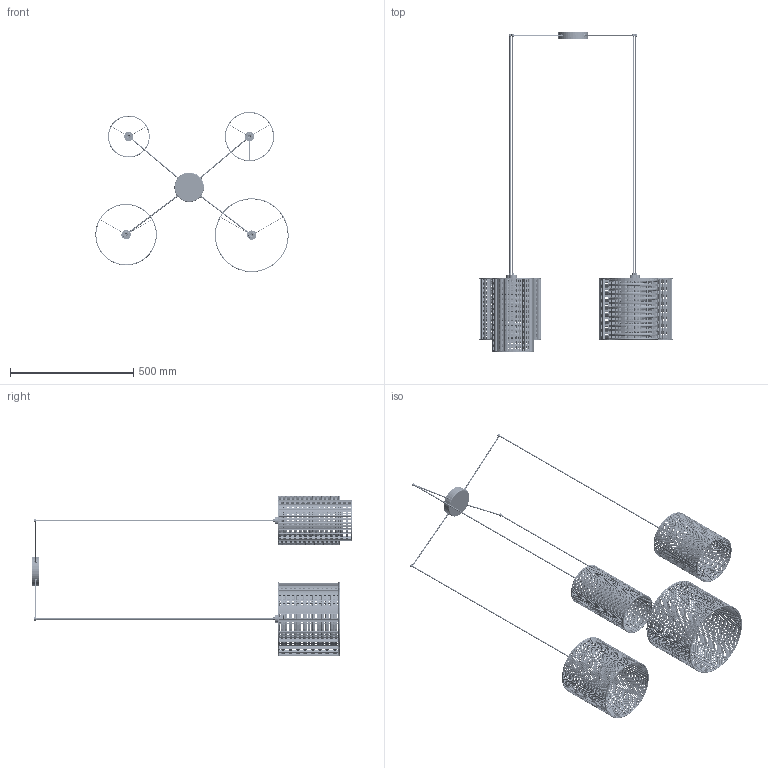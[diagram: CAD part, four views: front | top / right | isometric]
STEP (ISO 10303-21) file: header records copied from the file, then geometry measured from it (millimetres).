
FILE_DESCRIPTION(/* description */ (''),/* implementation_level */ '2;1');
FILE_NAME(/* name */ 'C:/Users/kubaw/OneDrive/Pulpit/Nowy folder (3)/6585_JUTA v6.step',/* time_stamp */ '2021-12-11T13:23:06+01:00',/* author */ (''),/* organization */ (''),/* preprocessor_version */ 'ST-DEVELOPER v18.1',/* originating_system */ 'Autodesk Translation Framework v10.10.0.1391',/* authorisation */ '');
FILE_SCHEMA (('AUTOMOTIVE_DESIGN { 1 0 10303 214 3 1 1 }'));
Products named in the file (6): 6585_JUTA; 6585_JUTA_KLOSZ (300); 6585_JUTA_KLOSZ (250); 6585_JUTA_KLOSZ (200); 6585_JUTA_KLOSZ (170); MOCOWANIE_JUTA
Assembly tree (8 placements, depth 3):
  6585_JUTA
    6585_JUTA_KLOSZ (300)
      MOCOWANIE_JUTA
    6585_JUTA_KLOSZ (250)
      MOCOWANIE_JUTA
    6585_JUTA_KLOSZ (200)
      MOCOWANIE_JUTA
    6585_JUTA_KLOSZ (170)
      MOCOWANIE_JUTA
Bounding box: 785.29 x 1300 x 650.26 mm (x, y, z)
Volume: 947751.8 mm3; surface area: 2637105 mm2
Topology: 3325 solids, 3325 shells, 39627 faces, 81305 edges, 48342 vertices
Faces by surface type: cylinder 19876, plane 15454, torus 4265, bspline 28, cone 4
Full cylindrical faces by diameter (mm): 2 x24, 5 x10, 6.68 x4, 7.68 x4, 8.8 x4, 11 x4, 12 x4, 19.84 x4, 24.929 x40, 26.88 x4, 28.8 x12, 32 x4, 33 x4, 33.12 x4, 38 x4, 162 x2, 167 x303, 168 x303, 170 x2, 192 x2, 197 x253, 198 x253, 200 x2, 242 x2, 247 x253, 248 x253, 250 x2, 292 x2, 296 x245, 297 x245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
Entity records: 1033359 total; most frequent: DIRECTION 194549, CARTESIAN_POINT 174363, ORIENTED_EDGE 161928, EDGE_CURVE 80964, AXIS2_PLACEMENT_3D 74179, VERTEX_POINT 48110, LINE 46191, VECTOR 46191
